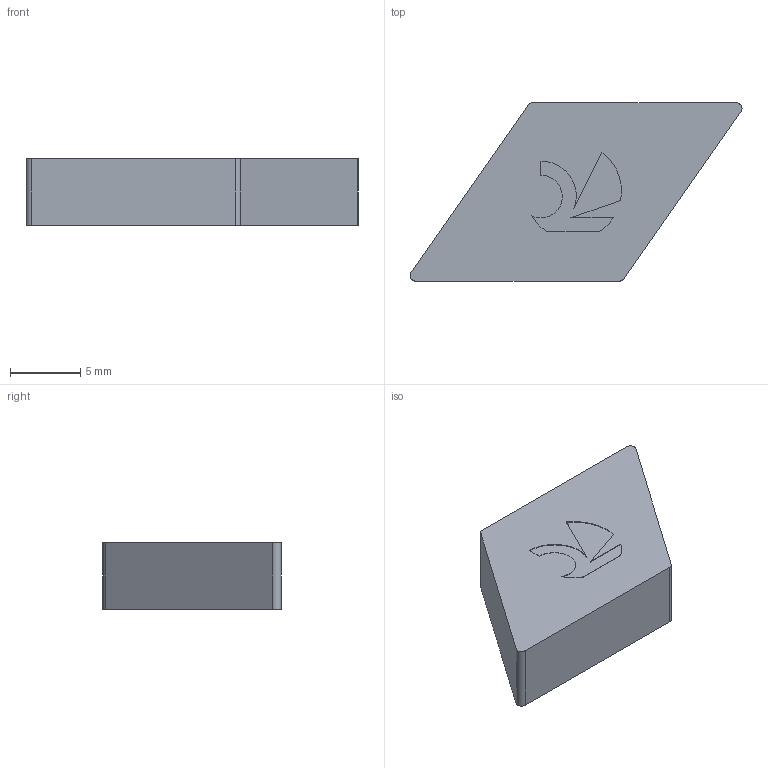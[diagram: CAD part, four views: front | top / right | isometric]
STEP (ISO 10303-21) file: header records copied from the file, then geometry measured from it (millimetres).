
FILE_DESCRIPTION(('no description'),'unknown implementation level');
FILE_NAME('solidvHMg2TyhftekT_tjZmdA5OcMUqQ_1.STP',' ',('CIMSOURCE GmbH'),('CADClick - KiM GmbH - www.kimweb.de'),'unknown preprocess','ACIS','unknown authorization');
FILE_SCHEMA(('automotive_design'));
Length unit declared in the file: millimetre
Products named in the file (1): CUT
Bounding box: 23.66 x 12.7 x 4.76 mm (x, y, z)
Volume: 935.7 mm3; surface area: 683.5 mm2
Topology: 1 solids, 1 shells, 22 faces, 57 edges, 38 vertices
Faces by surface type: plane 12, cylinder 10
Entity records: 1366 total; most frequent: DIRECTION 127, CARTESIAN_POINT 120, STYLED_ITEM 118, PRESENTATION_STYLE_ASSIGNMENT 118, COLOUR_RGB 118, ORIENTED_EDGE 114, EDGE_CURVE 57, CURVE_STYLE 57
